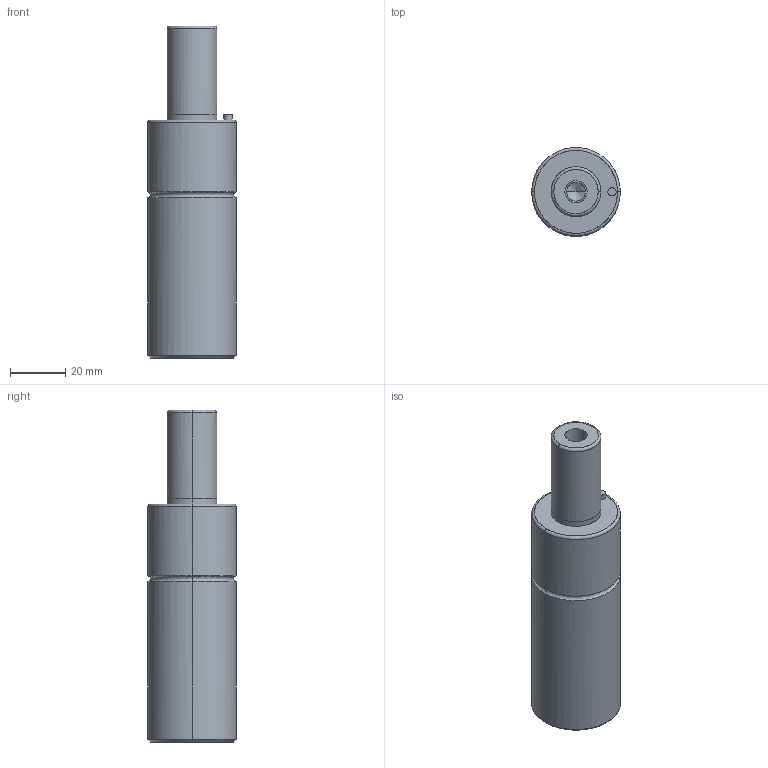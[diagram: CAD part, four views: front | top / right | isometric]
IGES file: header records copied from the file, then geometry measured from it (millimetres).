
Global section: file name: E:\UnigraphicsGraphicData\MISUMI_PRESS-PARTS\IGES\3d_gsm32-32_03922_r00.igs; native system: NX V5.0; preprocessor: UGS NX IGES V5.0; author: MISUMI; date: 20110105.160810; units: millimetre
Bounding box: 32 x 31.92 x 120 mm (x, y, z)
Surface area: 13034.4 mm2 (no closed solid volume)
Topology: 0 solids, 0 shells, 50 faces, 328 edges, 320 vertices
Faces by surface type: bspline 50
